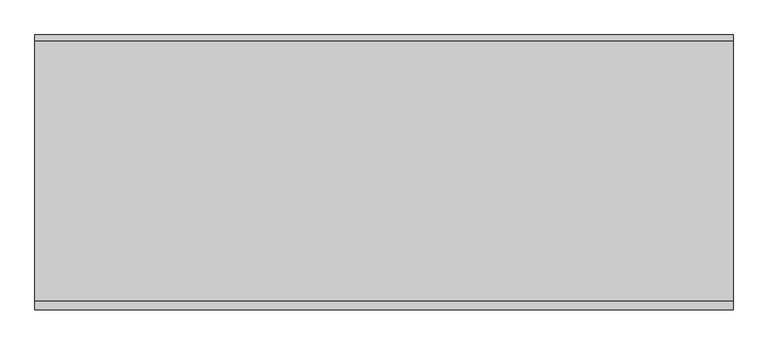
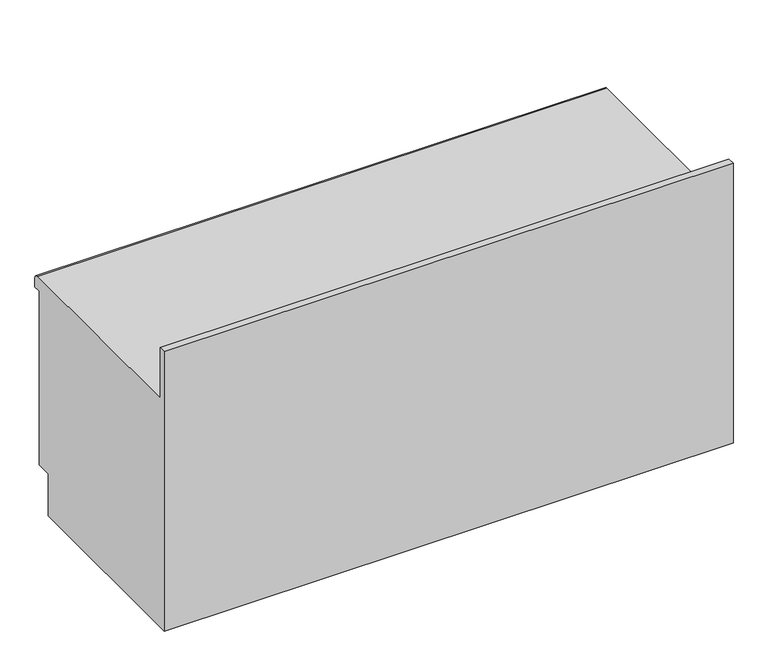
"""IFC4 building model written with IfcOpenShell, lengths in millimetres: flow terminal geometry, 桌上式台盆_多个 : 标准."""

from ifc_helpers import new_model, si_unit, point, frame, frame_2d, origin, place, context, project, spatial, polyline, circle_curve, trimmed, segment, composite_curve, outline, extrude, source, transform, mapped, element, save


def flow_terminal_e534977b(model_context):
    return source(origin(), model_context, "Body", "SweptSolid", [
        extrude(outline(composite_curve([segment(polyline([(0.0, 832.0), (20.0, 832.0), (20.0, 682.0), (615.0, 682.0)]), True, "CONTINUOUS"), segment(trimmed(circle_curve(frame_2d((615.0, 667.0)), 15.0), [point((615.0, 682.0))], [point((630.0, 667.0))], False, "CARTESIAN"), True, "CONTINUOUS"), segment(polyline([(630.0, 667.0), (630.0, 642.0), (610.0, 642.0), (610.0, 125.0), (565.0, 125.0), (565.0, 0.0), (0.0, 0.0), (0.0, 832.0)]), True, "CONTINUOUS")], self_intersect=False)), frame((-713.6377035, 0.0, 0.0), z_axis=(1.0, 0.0, 0.0), x_axis=(0.0, 1.0, 0.0)), (0.0, 0.0, 1.0), 1600.0),
    ])


if __name__ == "__main__":
    model = new_model("IFC4")
    model_context = context("Model", 3, world=origin())
    ifc_project = project(units=[si_unit("LENGTHUNIT", "METRE", prefix="MILLI")], contexts=[model_context])
    site = spatial("IfcSite", under=ifc_project)
    building = spatial("IfcBuilding", under=site)
    placement = place(None, origin())
    flow_terminal_shape = flow_terminal_e534977b(model_context)
    element("IfcFlowTerminal", 1, ObjectType="桌上式台盆_多个 : 标准", at=placement, inside=building, context=model_context, shape_type="MappedRepresentation", body=[
        mapped(flow_terminal_shape, transform((0.0, 0.0, 0.0), x_axis=(1.0, 0.0, 0.0), y_axis=(0.0, 1.0, 0.0), z_axis=(0.0, 0.0, 1.0))),
    ])
    save(model, "model.ifc")
